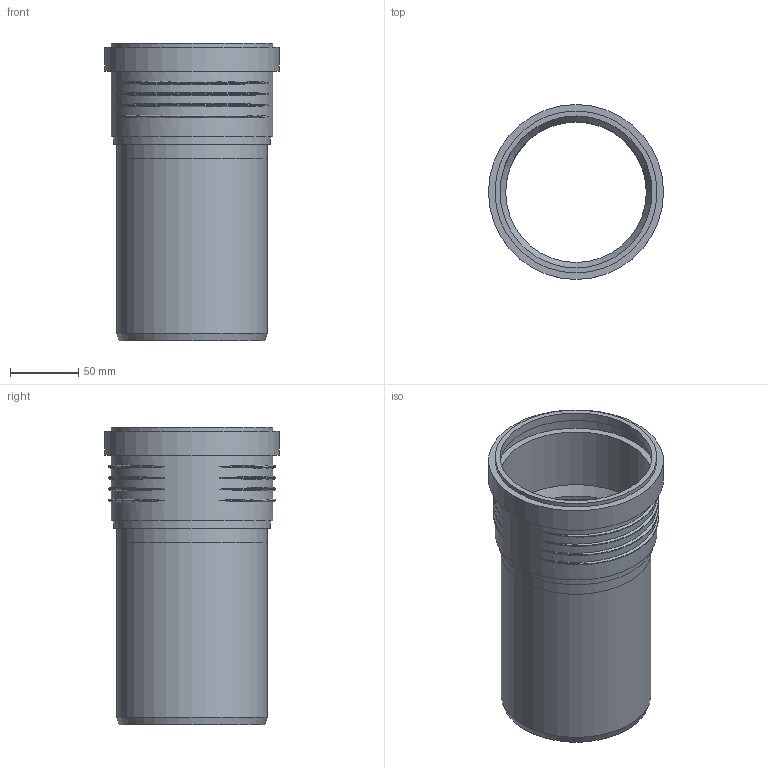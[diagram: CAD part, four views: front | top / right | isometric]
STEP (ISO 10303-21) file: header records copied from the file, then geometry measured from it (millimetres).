
FILE_DESCRIPTION(/* description */ (''),/* implementation_level */ '2;1');
FILE_NAME(/* name */ 'Z:\Geberit\Export\NewStep\390500.stp',/* time_stamp */ '2014-04-02T08:13:44+02:00',/* author */ ('ML'),/* organization */ (''),/* preprocessor_version */ 'ST-DEVELOPER v15.2',/* originating_system */ 'Autodesk Inventor 2014',/* authorisation */ '');
FILE_SCHEMA (('AUTOMOTIVE_DESIGN { 1 0 10303 214 3 1 1 }'));
Length unit declared in the file: millimetre
Products named in the file (3): 861702; 861704ohne; 390500
Bounding box: 128.1 x 128.1 x 218.1 mm (x, y, z)
Volume: 302395.2 mm3; surface area: 172795 mm2
Topology: 2 solids, 2 shells, 47 faces, 104 edges, 71 vertices
Faces by surface type: torus 24, cylinder 11, plane 10, cone 2
Full cylindrical faces by diameter (mm): 103 x2, 110.2 x2, 111.3 x2, 114.9 x1, 118.5 x2, 120.9 x1, 128.1 x1
Entity records: 2003 total; most frequent: CARTESIAN_POINT 962, DIRECTION 182, ORIENTED_EDGE 174, AXIS2_PLACEMENT_3D 91, EDGE_CURVE 87, EDGE_LOOP 78, VERTEX_POINT 71, STYLED_ITEM 49
